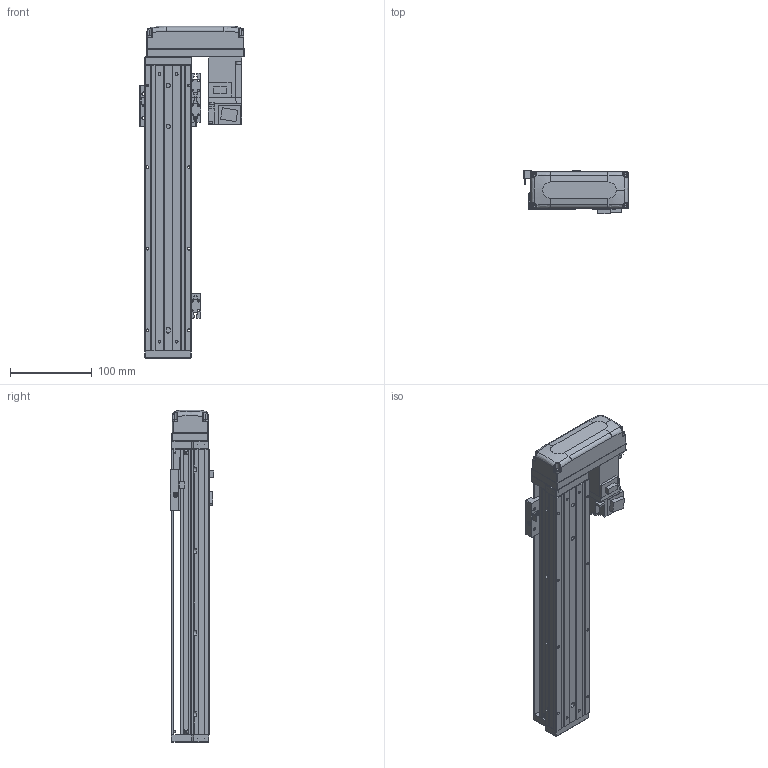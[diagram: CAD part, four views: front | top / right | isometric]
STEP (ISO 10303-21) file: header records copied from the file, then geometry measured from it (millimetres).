
FILE_DESCRIPTION (( 'STEP AP203' ), '1' );
FILE_NAME ('KTHA50-250-BL-M10-C4L.step', '2022-03-19T07:05:58', ( '微软用户' ), ( '微软中国' ), 'SwSTEP 2.0', 'SolidWorks 2020', '' );
FILE_SCHEMA (( 'CONFIG_CONTROL_DESIGN' ));
Length unit declared in the file: millimetre
Products named in the file (18): EE_SX911P_R; GBT 70.3-M3℅6; GBT77-2000 M3×3; HG-KR13（三菱）; KTHA50-001_350; GBT 70.1-M3℅6; CTHA50-015-2_CTHA60-015-2; KTHA50-002; CTHA60-017; CTHA60-033; KTHA50-004; GBT 70.1-M4×12; GBT 70.1-M3×15; KTHA50-005; CTHA60-016; KTHA50-250-BL-M10-C4L; GB¨uT 70.2-M3¡Á6_M3¡Á6; CTHA60-021
Assembly tree (53 placements, depth 2):
  KTHA50-250-BL-M10-C4L
    KTHA50-001_350
    KTHA50-002
    KTHA50-004
    KTHA50-005
    GB¨uT 70.2-M3¡Á6_M3¡Á6  x6
    EE_SX911P_R  x3
    GBT77-2000 M3×3  x6
    GBT 70.1-M3℅6  x6
    CTHA60-017  x3
    GBT 70.1-M4×12  x10
    CTHA60-016  x2
    CTHA60-021  x2
    GBT 70.3-M3℅6  x4
    HG-KR13（三菱）
    CTHA50-015-2_CTHA60-015-2
    CTHA60-033
    GBT 70.1-M3×15  x4
Bounding box: 128.4 x 53.3 x 407 mm (x, y, z)
Volume: 949326.4 mm3; surface area: 233793.5 mm2
Topology: 56 solids, 56 shells, 2223 faces, 5239 edges, 3208 vertices
Faces by surface type: plane 1240, cylinder 538, cone 303, torus 100, bspline 26, sphere 16
Entity records: 36943 total; most frequent: CARTESIAN_POINT 7010, DIRECTION 5745, ORIENTED_EDGE 5490, EDGE_CURVE 2745, AXIS2_PLACEMENT_3D 1959, LINE 1827, VECTOR 1827, VERTEX_POINT 1722
